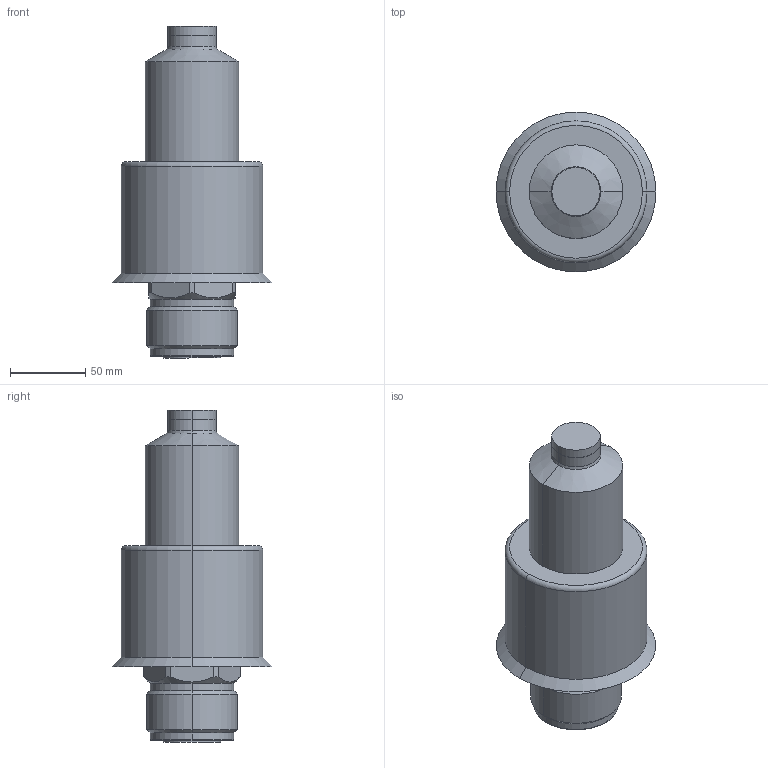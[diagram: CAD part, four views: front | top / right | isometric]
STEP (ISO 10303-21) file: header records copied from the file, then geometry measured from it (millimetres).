
FILE_DESCRIPTION (( 'STEP AP214' ), '1' );
FILE_NAME ('T24_CLOSED_161_BAND_RD.STEP', '2016-09-09T13:17:14', ( '' ), ( '' ), 'SwSTEP 2.0', 'SolidWorks 2015', '' );
FILE_SCHEMA (( 'AUTOMOTIVE_DESIGN' ));
Length unit declared in the file: millimetre
Products named in the file (1): T24_CLOSED_161_BAND_RD
Bounding box: 106 x 106 x 220 mm (x, y, z)
Volume: 1289324.8 mm3; surface area: 103081.4 mm2
Topology: 2 solids, 2 shells, 249 faces, 615 edges, 379 vertices
Faces by surface type: plane 95, cylinder 93, torus 39, cone 18, sphere 2, bspline 2
Entity records: 10825 total; most frequent: CARTESIAN_POINT 2062, DIRECTION 1319, ORIENTED_EDGE 1226, EDGE_CURVE 613, AXIS2_PLACEMENT_3D 518, VERTEX_POINT 379, LINE 283, VECTOR 283
